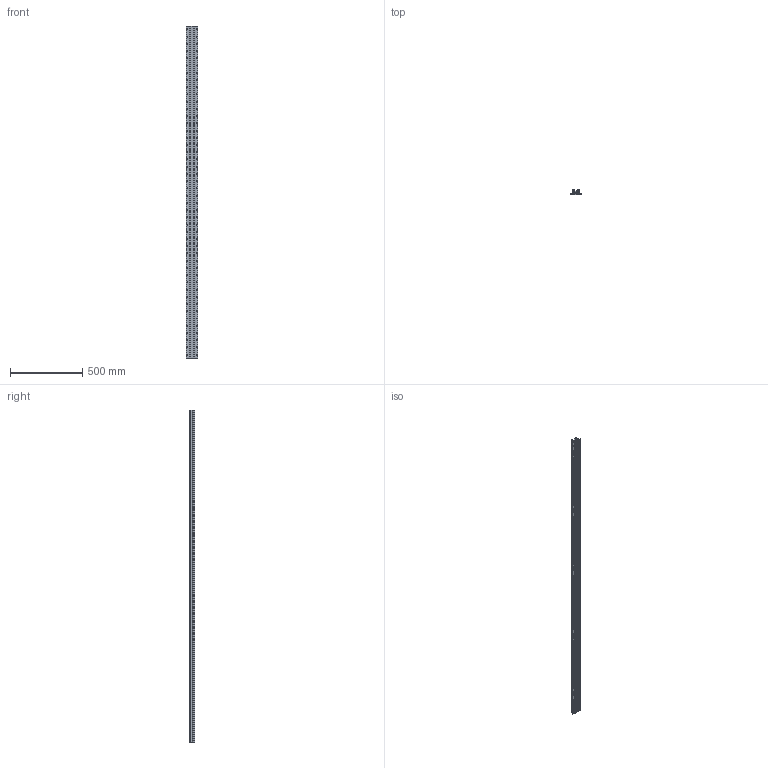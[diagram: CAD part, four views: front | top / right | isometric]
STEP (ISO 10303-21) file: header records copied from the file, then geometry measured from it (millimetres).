
FILE_DESCRIPTION (( 'STEP AP203' ), '1' );
FILE_NAME ('LFS-8-7_-_L=2296.step', '2006-12-18T13:28:14', ( ' ' ), ( ' ' ), 'SwSTEP 2.0', 'SolidWorks 2006089', '' );
FILE_SCHEMA (( 'CONFIG_CONTROL_DESIGN' ));
Length unit declared in the file: millimetre
Products named in the file (1): LFS-8-7_-_L=2296
Bounding box: 78 x 36 x 2296 mm (x, y, z)
Volume: 1986589.9 mm3; surface area: 1276544.4 mm2
Topology: 3 solids, 3 shells, 543 faces, 1703 edges, 1074 vertices
Faces by surface type: plane 303, cylinder 240
Entity records: 19178 total; most frequent: CARTESIAN_POINT 4425, ORIENTED_EDGE 3406, DIRECTION 2903, EDGE_CURVE 1703, VERTEX_POINT 1074, AXIS2_PLACEMENT_3D 1024, VECTOR 855, LINE 855
